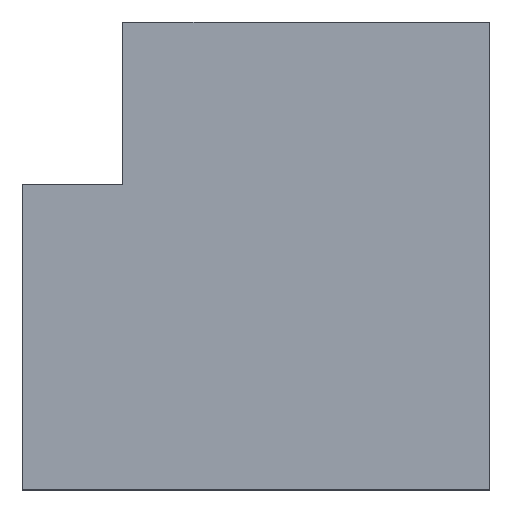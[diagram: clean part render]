
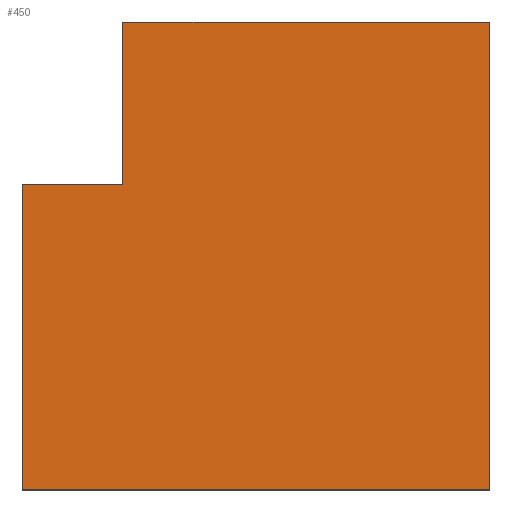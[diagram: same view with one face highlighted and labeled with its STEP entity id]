
A CAD part, top view. The second image highlights one B-rep face of the part: STEP entity #450.
In plain terms, the highlighted planar face has unit normal (0, 0, 1).
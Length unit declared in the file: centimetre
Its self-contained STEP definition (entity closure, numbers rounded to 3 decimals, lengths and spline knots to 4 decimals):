
#7 = LINE ( 'NONE', #303, #433 ) ;
#14 = DIRECTION ( 'NONE',  ( -1., 0., 0. ) ) ;
#32 = CARTESIAN_POINT ( 'NONE',  ( 215.0121, 652.9212, 1000. ) ) ;
#42 = LINE ( 'NONE', #369, #413 ) ;
#60 = VERTEX_POINT ( 'NONE', #240 ) ;
#71 = VERTEX_POINT ( 'NONE', #115 ) ;
#72 = DIRECTION ( 'NONE',  ( 1., 0., 0. ) ) ;
#74 = EDGE_CURVE ( 'NONE', #425, #427, #437, .T. ) ;
#75 = LINE ( 'NONE', #300, #136 ) ;
#76 = PLANE ( 'NONE',  #255 ) ;
#107 = EDGE_CURVE ( 'NONE', #71, #427, #371, .T. ) ;
#112 = LINE ( 'NONE', #269, #220 ) ;
#115 = CARTESIAN_POINT ( 'NONE',  ( 1000., 1000., 1000. ) ) ;
#117 = VECTOR ( 'NONE', #192, 100. ) ;
#136 = VECTOR ( 'NONE', #402, 100. ) ;
#149 = DIRECTION ( 'NONE',  ( 0., -1., 0. ) ) ;
#150 = EDGE_CURVE ( 'NONE', #167, #71, #42, .T. ) ;
#155 = EDGE_CURVE ( 'NONE', #425, #60, #112, .T. ) ;
#167 = VERTEX_POINT ( 'NONE', #265 ) ;
#178 = EDGE_CURVE ( 'NONE', #275, #167, #75, .T. ) ;
#179 = VECTOR ( 'NONE', #14, 100. ) ;
#184 = CARTESIAN_POINT ( 'NONE',  ( 0., 0., 1000. ) ) ;
#192 = DIRECTION ( 'NONE',  ( 0., 1., 0. ) ) ;
#199 = ORIENTED_EDGE ( 'NONE', *, *, #74, .F. ) ;
#219 = EDGE_CURVE ( 'NONE', #60, #275, #7, .T. ) ;
#220 = VECTOR ( 'NONE', #409, 100. ) ;
#240 = CARTESIAN_POINT ( 'NONE',  ( 0., 652.9212, 1000. ) ) ;
#255 = AXIS2_PLACEMENT_3D ( 'NONE', #184, #327, #72 ) ;
#265 = CARTESIAN_POINT ( 'NONE',  ( 1000., 0., 1000. ) ) ;
#269 = CARTESIAN_POINT ( 'NONE',  ( 215.0121, 652.9212, 1000. ) ) ;
#271 = ORIENTED_EDGE ( 'NONE', *, *, #219, .T. ) ;
#275 = VERTEX_POINT ( 'NONE', #454 ) ;
#300 = CARTESIAN_POINT ( 'NONE',  ( 0., 0., 1000. ) ) ;
#303 = CARTESIAN_POINT ( 'NONE',  ( 0., 1000., 1000. ) ) ;
#309 = DIRECTION ( 'NONE',  ( 0., 1., 0. ) ) ;
#324 = ORIENTED_EDGE ( 'NONE', *, *, #178, .T. ) ;
#326 = EDGE_LOOP ( 'NONE', ( #363, #271, #324, #379, #387, #199 ) ) ;
#327 = DIRECTION ( 'NONE',  ( 0., 0., 1. ) ) ;
#338 = FACE_OUTER_BOUND ( 'NONE', #326, .T. ) ;
#343 = CARTESIAN_POINT ( 'NONE',  ( 0., 1000., 1000. ) ) ;
#363 = ORIENTED_EDGE ( 'NONE', *, *, #155, .T. ) ;
#366 = CARTESIAN_POINT ( 'NONE',  ( 215.0121, 1000., 1000. ) ) ;
#369 = CARTESIAN_POINT ( 'NONE',  ( 1000., 1000., 1000. ) ) ;
#371 = LINE ( 'NONE', #343, #179 ) ;
#379 = ORIENTED_EDGE ( 'NONE', *, *, #150, .T. ) ;
#387 = ORIENTED_EDGE ( 'NONE', *, *, #107, .T. ) ;
#402 = DIRECTION ( 'NONE',  ( 1., 0., 0. ) ) ;
#409 = DIRECTION ( 'NONE',  ( -1., 0., 0. ) ) ;
#413 = VECTOR ( 'NONE', #309, 100. ) ;
#425 = VERTEX_POINT ( 'NONE', #32 ) ;
#427 = VERTEX_POINT ( 'NONE', #366 ) ;
#433 = VECTOR ( 'NONE', #149, 100. ) ;
#437 = LINE ( 'NONE', #443, #117 ) ;
#443 = CARTESIAN_POINT ( 'NONE',  ( 215.0121, 1000., 1000. ) ) ;
#450 = ADVANCED_FACE ( 'NONE', ( #338 ), #76, .T. ) ;
#454 = CARTESIAN_POINT ( 'NONE',  ( 0., 0., 1000. ) ) ;
